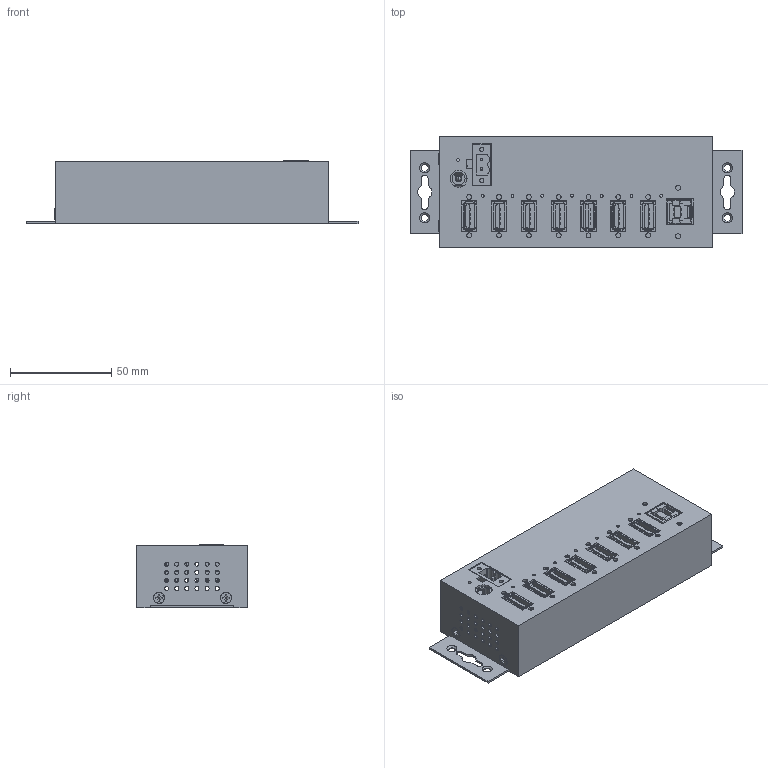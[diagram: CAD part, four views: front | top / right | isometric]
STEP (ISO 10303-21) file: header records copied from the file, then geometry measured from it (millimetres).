
FILE_DESCRIPTION(('FreeCAD Model'),'2;1');
FILE_NAME( 'X:/Technische Zeichnungen/EX-1187HMVS-2/EDX-1187HMVS-2_3D.step', '2022-06-22T10:47:24',('Author'),(''), 'Open CASCADE STEP processor 7.3','FreeCAD','Unknown');
FILE_SCHEMA(('AUTOMOTIVE_DESIGN { 1 0 10303 214 1 1 1 1 }'));
Products named in the file (1): EX-1187HMVS-2_3D
Bounding box: 164.1 x 54.9 x 31.16 mm (x, y, z)
Volume: 52812.9 mm3; surface area: 90727.2 mm2
Topology: 5 solids, 6 shells, 5271 faces, 14995 edges, 9859 vertices
Faces by surface type: plane 4315, cylinder 747, cone 97, torus 74, sphere 28, revolution 6, bspline 4
Full cylindrical faces by diameter (mm): 1.4 x8, 2 x50, 2.4 x14, 2.5 x2, 2.6 x12, 3.4 x8, 4 x1, 5.3 x4, 8.4 x1
Entity records: 487171 total; most frequent: CARTESIAN_POINT 164983, DIRECTION 48029, LINE 32588, VECTOR 32588, ORIENTED_EDGE 29938, PCURVE 29934, DEFINITIONAL_REPRESENTATION 29934, EDGE_CURVE 14967
